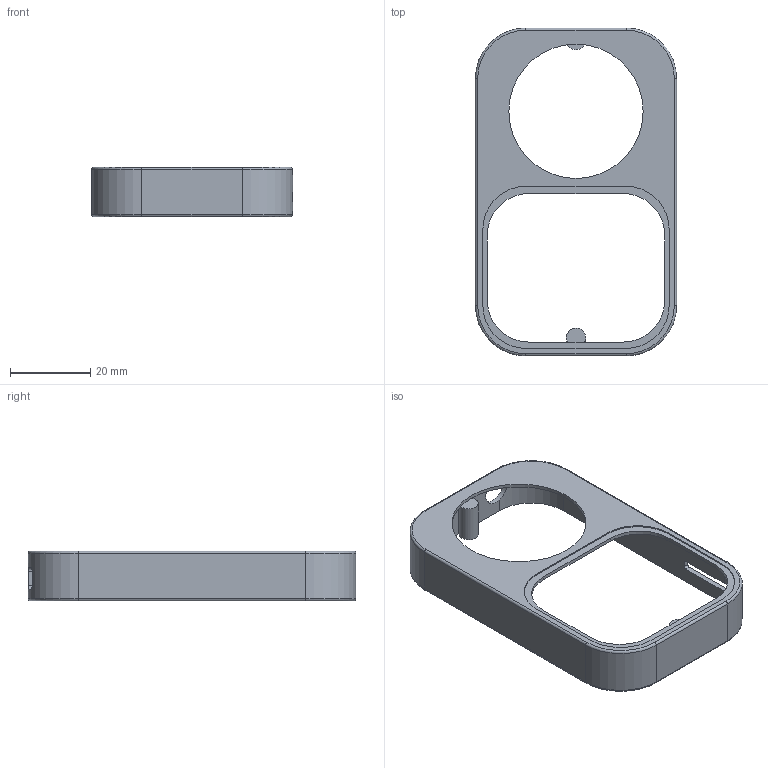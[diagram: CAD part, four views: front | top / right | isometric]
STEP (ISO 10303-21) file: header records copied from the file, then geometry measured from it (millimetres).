
FILE_DESCRIPTION(('FreeCAD Model'),'2;1');
FILE_NAME('Open CASCADE Shape Model','2026-09-22T01:38:06',('FreeCAD'),( 'FreeCAD'),'Open CASCADE STEP processor 7.8','FreeCAD','Unknown');
FILE_SCHEMA(('AUTOMOTIVE_DESIGN { 1 0 10303 214 1 1 1 1 }'));
Length unit declared in the file: millimetre
Products named in the file (1): Open CASCADE STEP translator 7.8 1
Bounding box: 50 x 81.5 x 12.3 mm (x, y, z)
Volume: 5027.7 mm3; surface area: 9024.1 mm2
Topology: 1 solids, 1 shells, 100 faces, 256 edges, 166 vertices
Faces by surface type: cylinder 47, plane 45, torus 8
Full cylindrical faces by diameter (mm): 1.3 x6, 4 x4, 4.8 x1, 7.2 x1, 33.4 x1, 34.9 x1
Entity records: 3216 total; most frequent: CARTESIAN_POINT 679, DIRECTION 552, ORIENTED_EDGE 512, EDGE_CURVE 256, AXIS2_PLACEMENT_3D 207, VERTEX_POINT 166, LINE 138, VECTOR 138
